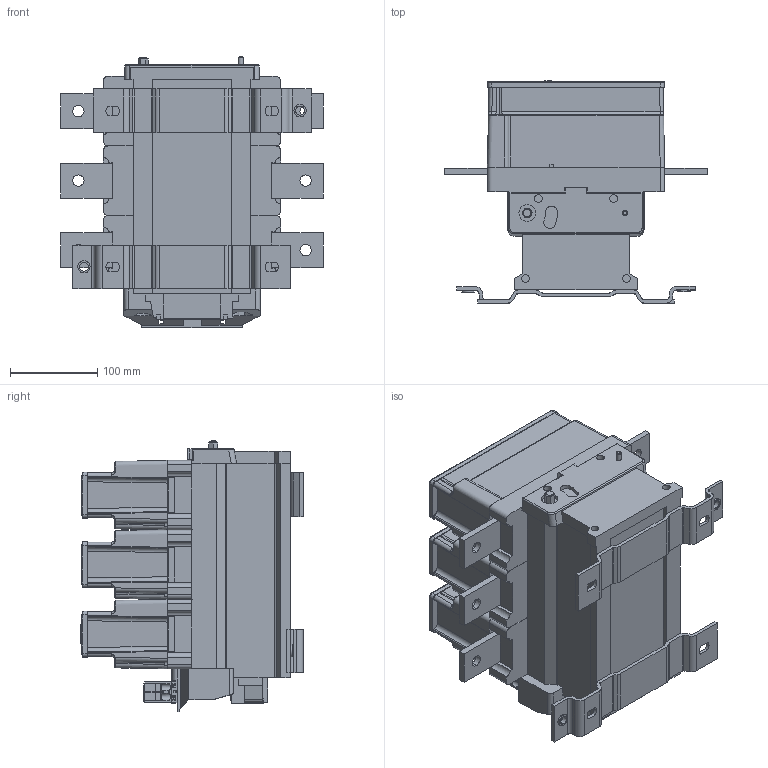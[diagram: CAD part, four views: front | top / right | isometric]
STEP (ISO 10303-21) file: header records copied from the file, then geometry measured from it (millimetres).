
FILE_DESCRIPTION (( 'STEP AP203' ), '1' );
FILE_NAME ('9100, 9100Ä.STEP', '2020-02-12T13:29:39', ( '' ), ( '' ), 'SwSTEP 2.0', 'SolidWorks 2018', '' );
FILE_SCHEMA (( 'CONFIG_CONTROL_DESIGN' ));
Products named in the file (3): 9100_1; ﾏﾊﾋ-11; 9100, 9100ﾄ
Assembly tree (2 placements, depth 2):
  9100, 9100ﾄ
    9100_1
    ﾏﾊﾋ-11
Bounding box: 300 x 254.82 x 310.3 mm (x, y, z)
Volume: 8819894.1 mm3; surface area: 535733.8 mm2
Topology: 2 solids, 2 shells, 1541 faces, 4205 edges, 2723 vertices
Faces by surface type: plane 878, bspline 334, cylinder 317, torus 6, cone 4, sphere 2
Entity records: 76213 total; most frequent: CARTESIAN_POINT 40068, ORIENTED_EDGE 8382, DIRECTION 5965, EDGE_CURVE 4191, VERTEX_POINT 2723, VECTOR 2581, LINE 2581, AXIS2_PLACEMENT_3D 1692
